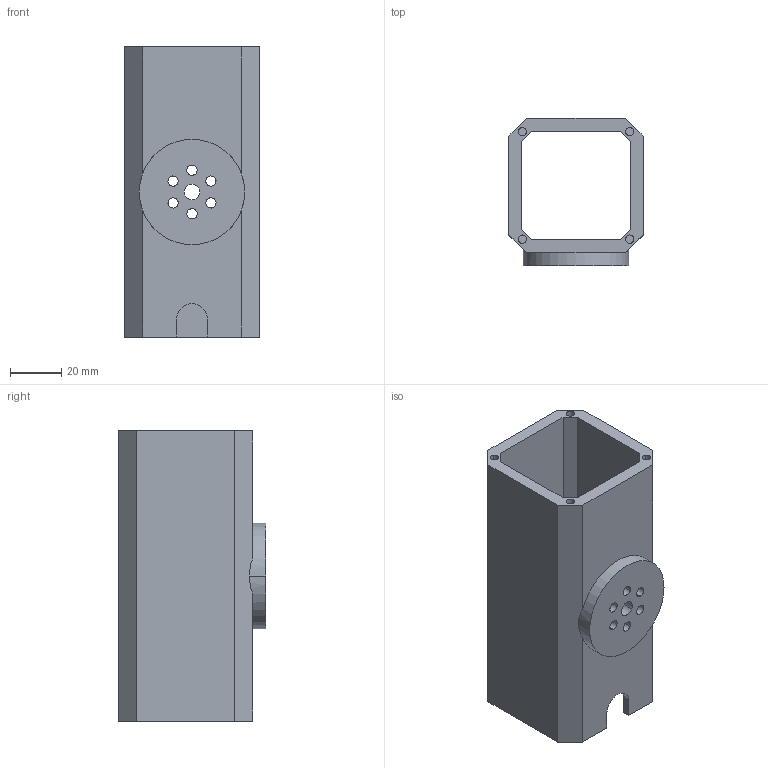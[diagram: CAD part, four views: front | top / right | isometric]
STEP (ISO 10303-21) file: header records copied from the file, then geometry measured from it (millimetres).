
FILE_DESCRIPTION(('CATIA V5 STEP Exchange'),'2;1');
FILE_NAME('C:\Users\Administrateur\Documents\Monture\Monture_voyage\Commande\Tete.stp','2023-03-13T07:11:13+00:00',('none'),('none'),'CATIA Version 5 Release 18 GA (IN-10)','CATIA V5 STEP AP203','none');
FILE_SCHEMA(('CONFIG_CONTROL_DESIGN'));
Length unit declared in the file: millimetre
Products named in the file (1): Tete
Bounding box: 52.3 x 57.31 x 113 mm (x, y, z)
Volume: 98903.5 mm3; surface area: 42756.3 mm2
Topology: 1 solids, 1 shells, 72 faces, 186 edges, 124 vertices
Faces by surface type: cylinder 38, plane 34
Entity records: 2101 total; most frequent: CARTESIAN_POINT 372, ORIENTED_EDGE 372, DIRECTION 272, EDGE_CURVE 186, VERTEX_POINT 124, AXIS2_PLACEMENT_3D 122, VECTOR 106, LINE 106
